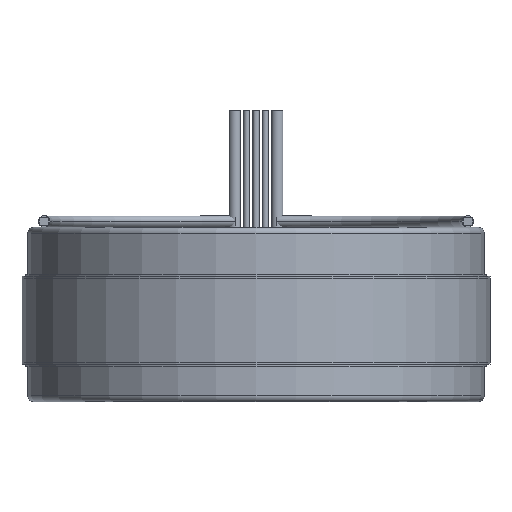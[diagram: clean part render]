
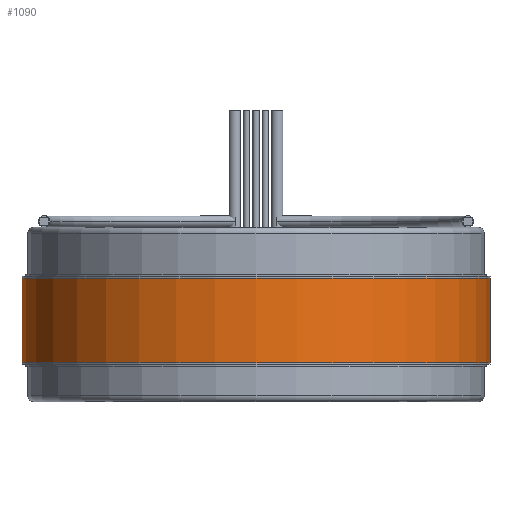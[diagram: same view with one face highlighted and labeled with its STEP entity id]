
A CAD part, front view. The second image highlights one B-rep face of the part: STEP entity #1090.
In plain terms, the highlighted cylindrical face has radius 50.8 mm (diameter 101.6 mm), a partial arc.
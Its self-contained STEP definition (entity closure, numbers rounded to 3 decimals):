
#181 = CARTESIAN_POINT ( 'NONE',  ( 50.8, 0., -9.169 ) ) ;
#183 = VECTOR ( 'NONE', #1041, 1000. ) ;
#206 = VERTEX_POINT ( 'NONE', #2572 ) ;
#251 = DIRECTION ( 'NONE',  ( 0., 0., 1. ) ) ;
#600 = AXIS2_PLACEMENT_3D ( 'NONE', #1609, #3198, #3219 ) ;
#751 = CIRCLE ( 'NONE', #2619, 50.8 ) ;
#779 = DIRECTION ( 'NONE',  ( 1., 0., 0. ) ) ;
#795 = CARTESIAN_POINT ( 'NONE',  ( 0., 0., -9.169 ) ) ;
#862 = ORIENTED_EDGE ( 'NONE', *, *, #1933, .T. ) ;
#890 = CYLINDRICAL_SURFACE ( 'NONE', #1657, 50.8 ) ;
#1036 = EDGE_CURVE ( 'NONE', #206, #1192, #2987, .T. ) ;
#1041 = DIRECTION ( 'NONE',  ( 0., 0., -1. ) ) ;
#1090 = ADVANCED_FACE ( 'NONE', ( #2164 ), #890, .T. ) ;
#1106 = CARTESIAN_POINT ( 'NONE',  ( -50.8, 0., 9.169 ) ) ;
#1164 = CARTESIAN_POINT ( 'NONE',  ( -50.8, 0., -9.169 ) ) ;
#1169 = ORIENTED_EDGE ( 'NONE', *, *, #1036, .F. ) ;
#1192 = VERTEX_POINT ( 'NONE', #3188 ) ;
#1388 = VERTEX_POINT ( 'NONE', #1164 ) ;
#1422 = DIRECTION ( 'NONE',  ( 0., 0., -1. ) ) ;
#1609 = CARTESIAN_POINT ( 'NONE',  ( 0., 0., 9.169 ) ) ;
#1657 = AXIS2_PLACEMENT_3D ( 'NONE', #2997, #1422, #1690 ) ;
#1690 = DIRECTION ( 'NONE',  ( -1., 0., 0. ) ) ;
#1795 = EDGE_CURVE ( 'NONE', #1388, #3470, #751, .T. ) ;
#1801 = EDGE_CURVE ( 'NONE', #1192, #3470, #2593, .T. ) ;
#1888 = ORIENTED_EDGE ( 'NONE', *, *, #1801, .F. ) ;
#1933 = EDGE_CURVE ( 'NONE', #206, #1388, #3226, .T. ) ;
#2164 = FACE_OUTER_BOUND ( 'NONE', #2745, .T. ) ;
#2390 = VECTOR ( 'NONE', #2942, 1000. ) ;
#2572 = CARTESIAN_POINT ( 'NONE',  ( -50.8, 0., 9.169 ) ) ;
#2593 = LINE ( 'NONE', #2861, #183 ) ;
#2619 = AXIS2_PLACEMENT_3D ( 'NONE', #795, #251, #779 ) ;
#2745 = EDGE_LOOP ( 'NONE', ( #1888, #1169, #862, #3250 ) ) ;
#2861 = CARTESIAN_POINT ( 'NONE',  ( 50.8, 0., 9.169 ) ) ;
#2942 = DIRECTION ( 'NONE',  ( 0., 0., -1. ) ) ;
#2987 = CIRCLE ( 'NONE', #600, 50.8 ) ;
#2997 = CARTESIAN_POINT ( 'NONE',  ( 0., 0., 9.169 ) ) ;
#3188 = CARTESIAN_POINT ( 'NONE',  ( 50.8, 0., 9.169 ) ) ;
#3198 = DIRECTION ( 'NONE',  ( 0., 0., 1. ) ) ;
#3219 = DIRECTION ( 'NONE',  ( 1., 0., 0. ) ) ;
#3226 = LINE ( 'NONE', #1106, #2390 ) ;
#3250 = ORIENTED_EDGE ( 'NONE', *, *, #1795, .T. ) ;
#3470 = VERTEX_POINT ( 'NONE', #181 ) ;
